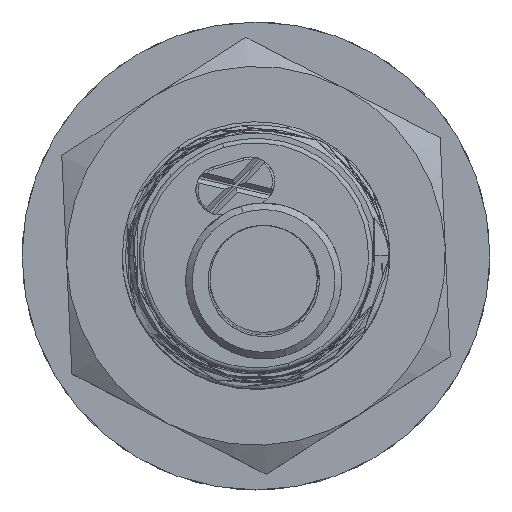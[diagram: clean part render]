
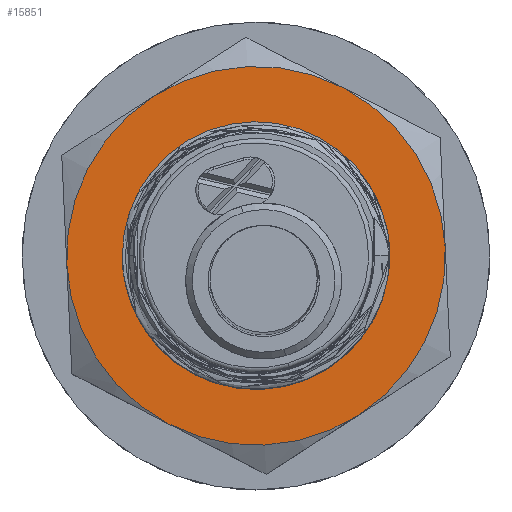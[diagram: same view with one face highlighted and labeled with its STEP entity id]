
A CAD part, top view. The second image highlights one B-rep face of the part: STEP entity #15851.
In plain terms, the highlighted planar face has unit normal (0, 0, 1).
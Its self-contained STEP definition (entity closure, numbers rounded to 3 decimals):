
#431 = CARTESIAN_POINT ( 'NONE',  ( 0., 0., 3.8 ) ) ;
#696 = ORIENTED_EDGE ( 'NONE', *, *, #8243, .F. ) ;
#860 = EDGE_CURVE ( 'NONE', #1407, #11344, #14744, .T. ) ;
#929 = AXIS2_PLACEMENT_3D ( 'NONE', #8202, #12059, #15039 ) ;
#1001 = ORIENTED_EDGE ( 'NONE', *, *, #16491, .T. ) ;
#1047 = EDGE_CURVE ( 'NONE', #14807, #13526, #4380, .T. ) ;
#1130 = AXIS2_PLACEMENT_3D ( 'NONE', #5569, #1459, #3074 ) ;
#1385 = AXIS2_PLACEMENT_3D ( 'NONE', #11453, #11631, #3773 ) ;
#1407 = VERTEX_POINT ( 'NONE', #2298 ) ;
#1459 = DIRECTION ( 'NONE',  ( 0., 0., 1. ) ) ;
#1587 = VERTEX_POINT ( 'NONE', #8950 ) ;
#2162 = CARTESIAN_POINT ( 'NONE',  ( 0., 0., 3.8 ) ) ;
#2199 = CIRCLE ( 'NONE', #1385, 8.5 ) ;
#2208 = CIRCLE ( 'NONE', #1130, 8.5 ) ;
#2298 = CARTESIAN_POINT ( 'NONE',  ( 6., 0., 3.8 ) ) ;
#2338 = DIRECTION ( 'NONE',  ( 1., 0., 0. ) ) ;
#2431 = DIRECTION ( 'NONE',  ( 0., 0., 1. ) ) ;
#2809 = AXIS2_PLACEMENT_3D ( 'NONE', #14212, #11391, #2338 ) ;
#2855 = VERTEX_POINT ( 'NONE', #9473 ) ;
#3074 = DIRECTION ( 'NONE',  ( 1., 0., 0. ) ) ;
#3157 = DIRECTION ( 'NONE',  ( 1., 0., 0. ) ) ;
#3253 = AXIS2_PLACEMENT_3D ( 'NONE', #4745, #2431, #3723 ) ;
#3285 = AXIS2_PLACEMENT_3D ( 'NONE', #431, #14524, #3157 ) ;
#3365 = EDGE_LOOP ( 'NONE', ( #13486, #1001, #8979, #12388, #12198, #5262 ) ) ;
#3491 = CIRCLE ( 'NONE', #4599, 8.5 ) ;
#3578 = CARTESIAN_POINT ( 'NONE',  ( 8.5, 0., 3.8 ) ) ;
#3723 = DIRECTION ( 'NONE',  ( 1., 0., 0. ) ) ;
#3773 = DIRECTION ( 'NONE',  ( 1., 0., 0. ) ) ;
#3917 = CIRCLE ( 'NONE', #2809, 8.5 ) ;
#3929 = CIRCLE ( 'NONE', #929, 6. ) ;
#4380 = CIRCLE ( 'NONE', #3285, 8.5 ) ;
#4541 = CARTESIAN_POINT ( 'NONE',  ( -4.25, 7.361, 3.8 ) ) ;
#4599 = AXIS2_PLACEMENT_3D ( 'NONE', #8644, #15227, #14886 ) ;
#4745 = CARTESIAN_POINT ( 'NONE',  ( 0., -9.815, 3.8 ) ) ;
#4998 = EDGE_CURVE ( 'NONE', #2855, #14807, #3491, .T. ) ;
#5093 = FACE_OUTER_BOUND ( 'NONE', #3365, .T. ) ;
#5134 = VERTEX_POINT ( 'NONE', #16429 ) ;
#5229 = DIRECTION ( 'NONE',  ( 0., 0., 1. ) ) ;
#5262 = ORIENTED_EDGE ( 'NONE', *, *, #4998, .T. ) ;
#5569 = CARTESIAN_POINT ( 'NONE',  ( 0., 0., 3.8 ) ) ;
#6365 = PLANE ( 'NONE',  #3253 ) ;
#6569 = DIRECTION ( 'NONE',  ( 1., 0., 0. ) ) ;
#7326 = VERTEX_POINT ( 'NONE', #4541 ) ;
#7376 = DIRECTION ( 'NONE',  ( 1., 0., 0. ) ) ;
#7521 = CARTESIAN_POINT ( 'NONE',  ( 0., 0., 3.8 ) ) ;
#7950 = EDGE_CURVE ( 'NONE', #5134, #7326, #3917, .T. ) ;
#8202 = CARTESIAN_POINT ( 'NONE',  ( 0., 0., 3.8 ) ) ;
#8243 = EDGE_CURVE ( 'NONE', #11344, #1407, #3929, .T. ) ;
#8644 = CARTESIAN_POINT ( 'NONE',  ( 0., 0., 3.8 ) ) ;
#8950 = CARTESIAN_POINT ( 'NONE',  ( -8.5, 0., 3.8 ) ) ;
#8979 = ORIENTED_EDGE ( 'NONE', *, *, #7950, .T. ) ;
#9473 = CARTESIAN_POINT ( 'NONE',  ( -4.25, -7.361, 3.8 ) ) ;
#10172 = DIRECTION ( 'NONE',  ( 0., 0., 1. ) ) ;
#10365 = AXIS2_PLACEMENT_3D ( 'NONE', #7521, #10172, #6569 ) ;
#10664 = CARTESIAN_POINT ( 'NONE',  ( 4.25, -7.361, 3.8 ) ) ;
#10983 = ORIENTED_EDGE ( 'NONE', *, *, #860, .F. ) ;
#11109 = CARTESIAN_POINT ( 'NONE',  ( -6., 0., 3.8 ) ) ;
#11344 = VERTEX_POINT ( 'NONE', #11109 ) ;
#11391 = DIRECTION ( 'NONE',  ( 0., 0., 1. ) ) ;
#11453 = CARTESIAN_POINT ( 'NONE',  ( 0., 0., 3.8 ) ) ;
#11631 = DIRECTION ( 'NONE',  ( 0., 0., 1. ) ) ;
#12059 = DIRECTION ( 'NONE',  ( 0., 0., 1. ) ) ;
#12198 = ORIENTED_EDGE ( 'NONE', *, *, #13296, .T. ) ;
#12388 = ORIENTED_EDGE ( 'NONE', *, *, #14143, .T. ) ;
#13296 = EDGE_CURVE ( 'NONE', #1587, #2855, #2199, .T. ) ;
#13486 = ORIENTED_EDGE ( 'NONE', *, *, #1047, .T. ) ;
#13526 = VERTEX_POINT ( 'NONE', #3578 ) ;
#14143 = EDGE_CURVE ( 'NONE', #7326, #1587, #2208, .T. ) ;
#14212 = CARTESIAN_POINT ( 'NONE',  ( 0., 0., 3.8 ) ) ;
#14213 = AXIS2_PLACEMENT_3D ( 'NONE', #2162, #5229, #7376 ) ;
#14524 = DIRECTION ( 'NONE',  ( 0., 0., 1. ) ) ;
#14744 = CIRCLE ( 'NONE', #14213, 6. ) ;
#14807 = VERTEX_POINT ( 'NONE', #10664 ) ;
#14886 = DIRECTION ( 'NONE',  ( 1., 0., 0. ) ) ;
#14964 = EDGE_LOOP ( 'NONE', ( #10983, #696 ) ) ;
#15039 = DIRECTION ( 'NONE',  ( 1., 0., 0. ) ) ;
#15227 = DIRECTION ( 'NONE',  ( 0., 0., 1. ) ) ;
#15851 = ADVANCED_FACE ( 'NONE', ( #16700, #5093 ), #6365, .T. ) ;
#16370 = CIRCLE ( 'NONE', #10365, 8.5 ) ;
#16429 = CARTESIAN_POINT ( 'NONE',  ( 4.25, 7.361, 3.8 ) ) ;
#16491 = EDGE_CURVE ( 'NONE', #13526, #5134, #16370, .T. ) ;
#16700 = FACE_BOUND ( 'NONE', #14964, .T. ) ;
